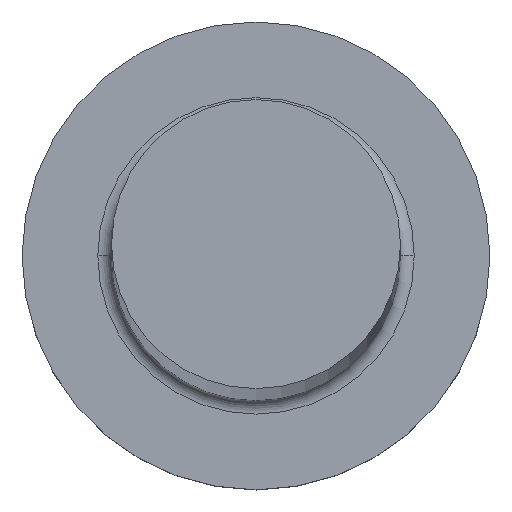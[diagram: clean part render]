
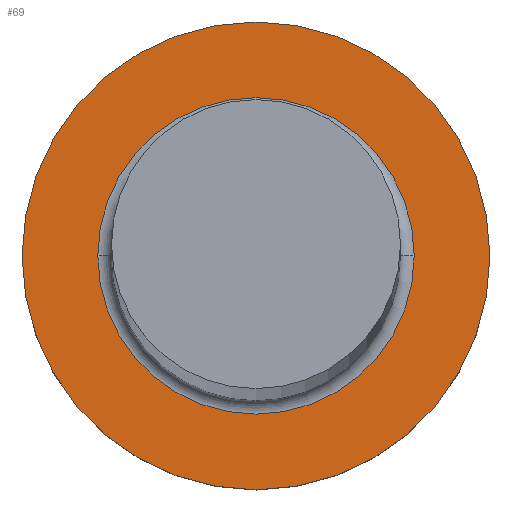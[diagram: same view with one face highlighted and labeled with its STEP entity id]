
A CAD part, top view. The second image highlights one B-rep face of the part: STEP entity #69.
In plain terms, the highlighted planar face has unit normal (0, 0, 1).
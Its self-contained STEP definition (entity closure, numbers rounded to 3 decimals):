
#8 = ORIENTED_EDGE ( 'NONE', *, *, #122, .T. ) ;
#10 = AXIS2_PLACEMENT_3D ( 'NONE', #152, #230, #179 ) ;
#16 = CARTESIAN_POINT ( 'NONE',  ( -8.5, 0., 4. ) ) ;
#34 = ORIENTED_EDGE ( 'NONE', *, *, #189, .F. ) ;
#36 = CARTESIAN_POINT ( 'NONE',  ( 0., 0., 4. ) ) ;
#50 = CIRCLE ( 'NONE', #126, 5.75 ) ;
#53 = EDGE_LOOP ( 'NONE', ( #84, #34 ) ) ;
#55 = DIRECTION ( 'NONE',  ( -1., 0., 0. ) ) ;
#69 = ADVANCED_FACE ( 'NONE', ( #178, #146 ), #167, .F. ) ;
#72 = DIRECTION ( 'NONE',  ( -1., 0., 0. ) ) ;
#73 = CARTESIAN_POINT ( 'NONE',  ( -5.75, 0., 4. ) ) ;
#75 = DIRECTION ( 'NONE',  ( -1., 0., 0. ) ) ;
#76 = CIRCLE ( 'NONE', #197, 5.75 ) ;
#84 = ORIENTED_EDGE ( 'NONE', *, *, #205, .F. ) ;
#85 = EDGE_CURVE ( 'NONE', #115, #150, #50, .T. ) ;
#90 = DIRECTION ( 'NONE',  ( 0., 0., -1. ) ) ;
#93 = CIRCLE ( 'NONE', #10, 8.5 ) ;
#111 = DIRECTION ( 'NONE',  ( 0., 0., -1. ) ) ;
#115 = VERTEX_POINT ( 'NONE', #125 ) ;
#120 = AXIS2_PLACEMENT_3D ( 'NONE', #129, #250, #75 ) ;
#122 = EDGE_CURVE ( 'NONE', #150, #115, #76, .T. ) ;
#125 = CARTESIAN_POINT ( 'NONE',  ( 5.75, 0., 4. ) ) ;
#126 = AXIS2_PLACEMENT_3D ( 'NONE', #172, #262, #148 ) ;
#127 = ORIENTED_EDGE ( 'NONE', *, *, #85, .T. ) ;
#129 = CARTESIAN_POINT ( 'NONE',  ( 0., 0., 4. ) ) ;
#139 = EDGE_LOOP ( 'NONE', ( #8, #127 ) ) ;
#146 = FACE_OUTER_BOUND ( 'NONE', #53, .T. ) ;
#148 = DIRECTION ( 'NONE',  ( -1., 0., 0. ) ) ;
#150 = VERTEX_POINT ( 'NONE', #73 ) ;
#152 = CARTESIAN_POINT ( 'NONE',  ( 0., 0., 4. ) ) ;
#167 = PLANE ( 'NONE',  #261 ) ;
#172 = CARTESIAN_POINT ( 'NONE',  ( 0., 0., 4. ) ) ;
#178 = FACE_BOUND ( 'NONE', #139, .T. ) ;
#179 = DIRECTION ( 'NONE',  ( -1., 0., 0. ) ) ;
#189 = EDGE_CURVE ( 'NONE', #203, #252, #232, .T. ) ;
#197 = AXIS2_PLACEMENT_3D ( 'NONE', #36, #90, #55 ) ;
#199 = CARTESIAN_POINT ( 'NONE',  ( 8.5, 0., 4. ) ) ;
#203 = VERTEX_POINT ( 'NONE', #199 ) ;
#205 = EDGE_CURVE ( 'NONE', #252, #203, #93, .T. ) ;
#216 = CARTESIAN_POINT ( 'NONE',  ( 8.5, 0., 4. ) ) ;
#230 = DIRECTION ( 'NONE',  ( 0., 0., -1. ) ) ;
#232 = CIRCLE ( 'NONE', #120, 8.5 ) ;
#250 = DIRECTION ( 'NONE',  ( 0., 0., -1. ) ) ;
#252 = VERTEX_POINT ( 'NONE', #16 ) ;
#261 = AXIS2_PLACEMENT_3D ( 'NONE', #216, #111, #72 ) ;
#262 = DIRECTION ( 'NONE',  ( 0., 0., -1. ) ) ;
